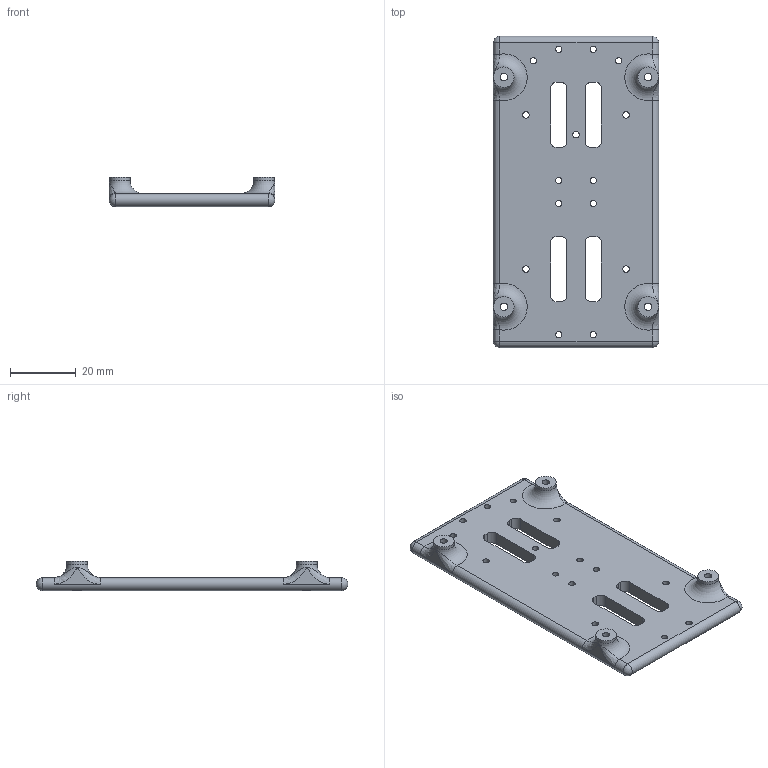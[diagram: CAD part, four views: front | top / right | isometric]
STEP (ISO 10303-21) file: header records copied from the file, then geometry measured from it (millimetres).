
FILE_DESCRIPTION(/* description */ (''),/* implementation_level */ '2;1');
FILE_NAME(/* name */ 'chassis v3.step',/* time_stamp */ '2025-07-16T17:42:57+08:00',/* author */ (''),/* organization */ (''),/* preprocessor_version */ 'ST-DEVELOPER v20.1',/* originating_system */ 'Autodesk Translation Framework v14.10.0.0',/* authorisation */ '');
FILE_SCHEMA (('AUTOMOTIVE_DESIGN { 1 0 10303 214 3 1 1 }'));
Length unit declared in the file: millimetre
Products named in the file (1): chassis
Bounding box: 50.5 x 95 x 9 mm (x, y, z)
Volume: 17580.2 mm3; surface area: 11164.2 mm2
Topology: 1 solids, 1 shells, 89 faces, 245 edges, 158 vertices
Faces by surface type: cylinder 47, plane 30, bspline 4, sphere 4, torus 4
Full cylindrical faces by diameter (mm): 1.95 x15, 2.25 x4, 4.25 x4, 6.25 x4
Entity records: 3891 total; most frequent: CARTESIAN_POINT 1434, DIRECTION 519, ORIENTED_EDGE 490, EDGE_CURVE 245, AXIS2_PLACEMENT_3D 204, VERTEX_POINT 158, EDGE_LOOP 135, CIRCLE 118
